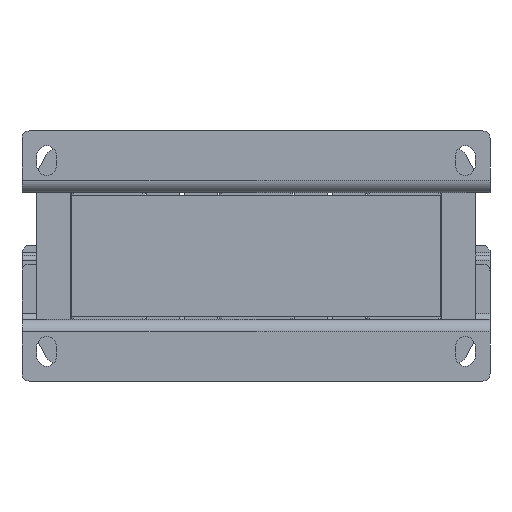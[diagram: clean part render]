
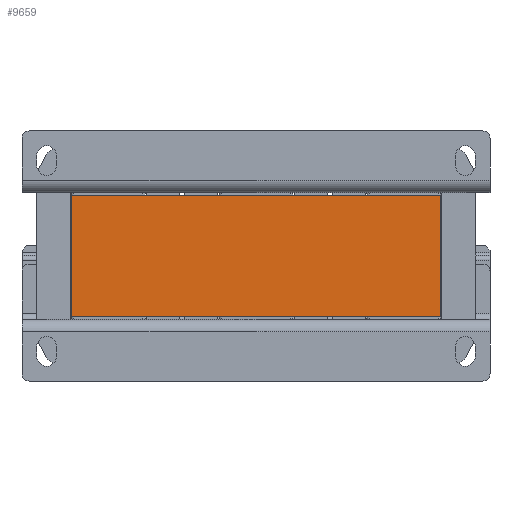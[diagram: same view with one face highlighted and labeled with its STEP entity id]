
A CAD part, front view. The second image highlights one B-rep face of the part: STEP entity #9659.
In plain terms, the highlighted planar face has unit normal (0, -1, 0).
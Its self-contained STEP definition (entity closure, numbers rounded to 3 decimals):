
#1351 = VERTEX_POINT ( 'NONE', #15663 ) ;
#2876 = DIRECTION ( 'NONE',  ( 0., 0., 1. ) ) ;
#2900 = VECTOR ( 'NONE', #5419, 1000. ) ;
#2944 = CARTESIAN_POINT ( 'NONE',  ( 75., -76.5, 24.75 ) ) ;
#4320 = LINE ( 'NONE', #40942, #13452 ) ;
#5419 = DIRECTION ( 'NONE',  ( 0., 0., -1. ) ) ;
#7608 = VECTOR ( 'NONE', #18447, 1000. ) ;
#7851 = AXIS2_PLACEMENT_3D ( 'NONE', #49441, #26189, #2876 ) ;
#9147 = VERTEX_POINT ( 'NONE', #2944 ) ;
#9659 = ADVANCED_FACE ( 'NONE', ( #39743 ), #18307, .F. ) ;
#13452 = VECTOR ( 'NONE', #13778, 1000. ) ;
#13778 = DIRECTION ( 'NONE',  ( 1., 0., 0. ) ) ;
#13941 = ORIENTED_EDGE ( 'NONE', *, *, #37497, .F. ) ;
#14120 = CARTESIAN_POINT ( 'NONE',  ( 75., -76.5, -24.75 ) ) ;
#14447 = LINE ( 'NONE', #44312, #2900 ) ;
#14757 = DIRECTION ( 'NONE',  ( 1., 0., 0. ) ) ;
#15319 = VECTOR ( 'NONE', #14757, 1000. ) ;
#15663 = CARTESIAN_POINT ( 'NONE',  ( -75., -76.5, 24.75 ) ) ;
#16162 = VERTEX_POINT ( 'NONE', #17298 ) ;
#17298 = CARTESIAN_POINT ( 'NONE',  ( -75., -76.5, -24.75 ) ) ;
#18078 = ORIENTED_EDGE ( 'NONE', *, *, #47510, .T. ) ;
#18307 = PLANE ( 'NONE',  #7851 ) ;
#18447 = DIRECTION ( 'NONE',  ( 0., 0., -1. ) ) ;
#18627 = ORIENTED_EDGE ( 'NONE', *, *, #21946, .F. ) ;
#21946 = EDGE_CURVE ( 'NONE', #9147, #36087, #38590, .T. ) ;
#25635 = EDGE_CURVE ( 'NONE', #16162, #36087, #4320, .T. ) ;
#26189 = DIRECTION ( 'NONE',  ( 0., 1., 0. ) ) ;
#34750 = LINE ( 'NONE', #38010, #15319 ) ;
#36087 = VERTEX_POINT ( 'NONE', #14120 ) ;
#37497 = EDGE_CURVE ( 'NONE', #1351, #9147, #34750, .T. ) ;
#37819 = CARTESIAN_POINT ( 'NONE',  ( 75., -76.5, 24.75 ) ) ;
#38010 = CARTESIAN_POINT ( 'NONE',  ( -75., -76.5, 24.75 ) ) ;
#38590 = LINE ( 'NONE', #37819, #7608 ) ;
#39743 = FACE_OUTER_BOUND ( 'NONE', #48461, .T. ) ;
#40942 = CARTESIAN_POINT ( 'NONE',  ( -75., -76.5, -24.75 ) ) ;
#44312 = CARTESIAN_POINT ( 'NONE',  ( -75., -76.5, 24.75 ) ) ;
#47510 = EDGE_CURVE ( 'NONE', #1351, #16162, #14447, .T. ) ;
#48461 = EDGE_LOOP ( 'NONE', ( #50081, #18627, #13941, #18078 ) ) ;
#49441 = CARTESIAN_POINT ( 'NONE',  ( -75., -76.5, 24.75 ) ) ;
#50081 = ORIENTED_EDGE ( 'NONE', *, *, #25635, .T. ) ;
